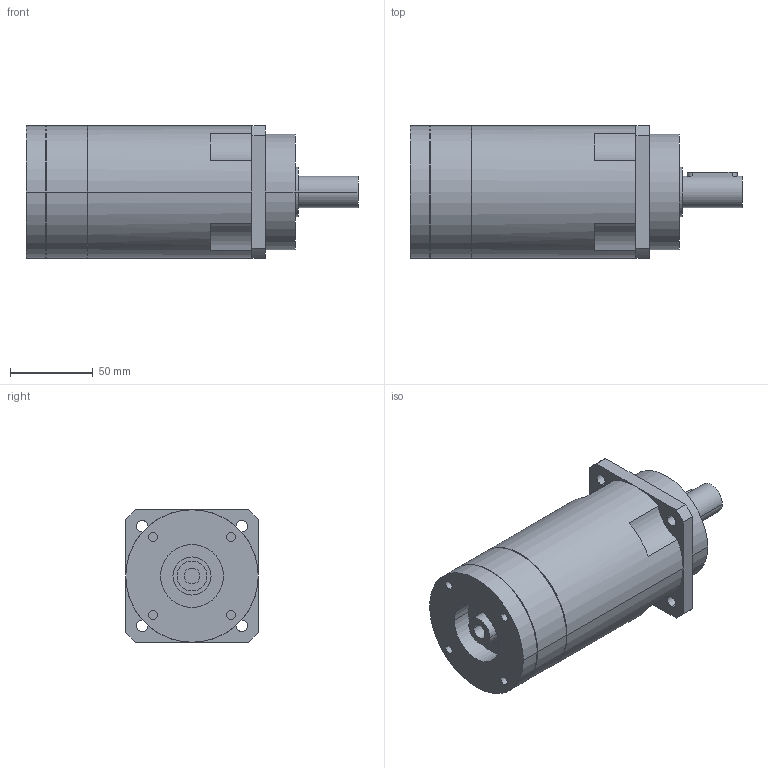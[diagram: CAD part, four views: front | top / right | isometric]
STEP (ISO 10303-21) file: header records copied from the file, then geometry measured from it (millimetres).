
FILE_DESCRIPTION(('CoCreate Modeling STEP Export'),'2;1');
FILE_NAME('GPR100_ig-48-64-80-100-120-144-180-216_19_B5_9.52_P01.stp','2014-08-26T11:57:34',(''),(''),'CoCreate Modeling STEP processor for AP214 (Solid Model)','CoCreate Modeling 16.00C 25-Feb-2009 (C) Parametric Technology GmbH','');
FILE_SCHEMA(('AUTOMOTIVE_DESIGN { 1 0 10303 214 1 1 1 1 }'));
Length unit declared in the file: millimetre
Products named in the file (2): GPR100_ig-48-64-80-100-120-144-180-216_19_B5_9.52_P01
Assembly tree (1 placements, depth 2):
  GPR100_ig-48-64-80-100-120-144-180-216_19_B5_9.52_P01
    GPR100_ig-48-64-80-100-120-144-180-216_19_B5_9.52_P01
Bounding box: 200.4 x 80 x 80 mm (x, y, z)
Volume: 792330.3 mm3; surface area: 61678.4 mm2
Topology: 1 solids, 1 shells, 96 faces, 248 edges, 170 vertices
Faces by surface type: cylinder 56, plane 34, cone 6
Entity records: 2599 total; most frequent: ORIENTED_EDGE 492, CARTESIAN_POINT 466, DIRECTION 376, EDGE_CURVE 246, VERTEX_POINT 170, AXIS2_PLACEMENT_3D 144, EDGE_LOOP 122, FACE_OUTER_BOUND 96
